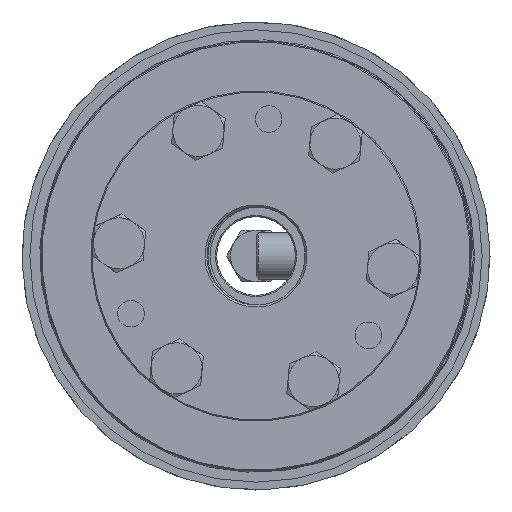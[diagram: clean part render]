
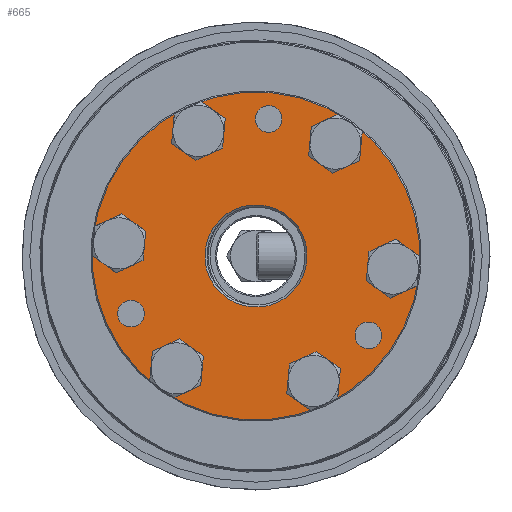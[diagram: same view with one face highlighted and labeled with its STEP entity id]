
A CAD part, left-side view. The second image highlights one B-rep face of the part: STEP entity #665.
In plain terms, the highlighted planar face has unit normal (-1, 0, 0).
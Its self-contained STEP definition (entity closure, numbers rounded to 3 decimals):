
#665 = ADVANCED_FACE( 'NONE', ( #1093, #1094, #1095, #1096, #1097, #1098, #1099, #1100, #1101, #1102, #1103 ), #1104, .F. );
#1093 = FACE_OUTER_BOUND( '', #1633, .T. );
#1094 = FACE_BOUND( '', #1634, .T. );
#1095 = FACE_BOUND( '', #1635, .T. );
#1096 = FACE_BOUND( '', #1636, .T. );
#1097 = FACE_BOUND( '', #1637, .T. );
#1098 = FACE_BOUND( '', #1638, .T. );
#1099 = FACE_BOUND( '', #1639, .T. );
#1100 = FACE_BOUND( '', #1640, .T. );
#1101 = FACE_BOUND( '', #1641, .T. );
#1102 = FACE_BOUND( '', #1642, .T. );
#1103 = FACE_BOUND( '', #1643, .T. );
#1104 = PLANE( '', #1644 );
#1633 = EDGE_LOOP( '', ( #2385 ) );
#1634 = EDGE_LOOP( '', ( #2386 ) );
#1635 = EDGE_LOOP( '', ( #2387 ) );
#1636 = EDGE_LOOP( '', ( #2388 ) );
#1637 = EDGE_LOOP( '', ( #2389 ) );
#1638 = EDGE_LOOP( '', ( #2390 ) );
#1639 = EDGE_LOOP( '', ( #2391 ) );
#1640 = EDGE_LOOP( '', ( #2392 ) );
#1641 = EDGE_LOOP( '', ( #2393 ) );
#1642 = EDGE_LOOP( '', ( #2394 ) );
#1643 = EDGE_LOOP( '', ( #2395 ) );
#1644 = AXIS2_PLACEMENT_3D( '', #2396, #2397, #2398 );
#2385 = ORIENTED_EDGE( '', *, *, #3129, .T. );
#2386 = ORIENTED_EDGE( '', *, *, #3112, .T. );
#2387 = ORIENTED_EDGE( '', *, *, #3127, .F. );
#2388 = ORIENTED_EDGE( '', *, *, #3124, .F. );
#2389 = ORIENTED_EDGE( '', *, *, #3125, .F. );
#2390 = ORIENTED_EDGE( '', *, *, #3128, .F. );
#2391 = ORIENTED_EDGE( '', *, *, #3130, .F. );
#2392 = ORIENTED_EDGE( '', *, *, #3131, .F. );
#2393 = ORIENTED_EDGE( '', *, *, #3132, .F. );
#2394 = ORIENTED_EDGE( '', *, *, #3110, .F. );
#2395 = ORIENTED_EDGE( '', *, *, #3126, .F. );
#2396 = CARTESIAN_POINT( '', ( 0., 12.5, 0. ) );
#2397 = DIRECTION( '', ( 1., 0., 0. ) );
#2398 = DIRECTION( '', ( 0., 1., 0. ) );
#3110 = EDGE_CURVE( 'NONE', #3470, #3470, #3471, .T. );
#3112 = EDGE_CURVE( 'NONE', #3474, #3474, #3475, .T. );
#3124 = EDGE_CURVE( 'NONE', #3498, #3498, #3499, .T. );
#3125 = EDGE_CURVE( 'NONE', #3500, #3500, #3501, .T. );
#3126 = EDGE_CURVE( 'NONE', #3502, #3502, #3503, .T. );
#3127 = EDGE_CURVE( 'NONE', #3504, #3504, #3505, .T. );
#3128 = EDGE_CURVE( 'NONE', #3506, #3506, #3507, .T. );
#3129 = EDGE_CURVE( 'NONE', #3508, #3508, #3509, .T. );
#3130 = EDGE_CURVE( 'NONE', #3510, #3510, #3511, .T. );
#3131 = EDGE_CURVE( 'NONE', #3512, #3512, #3513, .T. );
#3132 = EDGE_CURVE( 'NONE', #3514, #3514, #3515, .T. );
#3470 = VERTEX_POINT( '', #3950 );
#3471 = CIRCLE( '', #3951, 3.4 );
#3474 = VERTEX_POINT( '', #3954 );
#3475 = CIRCLE( '', #3955, 13. );
#3498 = VERTEX_POINT( '', #3978 );
#3499 = CIRCLE( '', #3979, 4.25 );
#3500 = VERTEX_POINT( '', #3980 );
#3501 = CIRCLE( '', #3981, 4.25 );
#3502 = VERTEX_POINT( '', #3982 );
#3503 = CIRCLE( '', #3983, 3.4 );
#3504 = VERTEX_POINT( '', #3984 );
#3505 = CIRCLE( '', #3985, 3.4 );
#3506 = VERTEX_POINT( '', #3986 );
#3507 = CIRCLE( '', #3987, 4.25 );
#3508 = VERTEX_POINT( '', #3988 );
#3509 = CIRCLE( '', #3989, 41.7 );
#3510 = VERTEX_POINT( '', #3990 );
#3511 = CIRCLE( '', #3991, 4.25 );
#3512 = VERTEX_POINT( '', #3992 );
#3513 = CIRCLE( '', #3993, 4.25 );
#3514 = VERTEX_POINT( '', #3994 );
#3515 = CIRCLE( '', #3995, 4.25 );
#3950 = CARTESIAN_POINT( '', ( 0., 17.5, 33.711 ) );
#3951 = AXIS2_PLACEMENT_3D( '', #4906, #4907, #4908 );
#3954 = CARTESIAN_POINT( '', ( 0., 0., -13. ) );
#3955 = AXIS2_PLACEMENT_3D( '', #4912, #4913, #4914 );
#3978 = CARTESIAN_POINT( '', ( 0., 0., 39.25 ) );
#3979 = AXIS2_PLACEMENT_3D( '', #4948, #4949, #4950 );
#3980 = CARTESIAN_POINT( '', ( 0., 30.311, 21.75 ) );
#3981 = AXIS2_PLACEMENT_3D( '', #4951, #4952, #4953 );
#3982 = CARTESIAN_POINT( '', ( 0., -35., 3.4 ) );
#3983 = AXIS2_PLACEMENT_3D( '', #4954, #4955, #4956 );
#3984 = CARTESIAN_POINT( '', ( 0., 17.5, -26.911 ) );
#3985 = AXIS2_PLACEMENT_3D( '', #4957, #4958, #4959 );
#3986 = CARTESIAN_POINT( '', ( 0., 30.311, -13.25 ) );
#3987 = AXIS2_PLACEMENT_3D( '', #4960, #4961, #4962 );
#3988 = CARTESIAN_POINT( '', ( 0., 0., -41.7 ) );
#3989 = AXIS2_PLACEMENT_3D( '', #4963, #4964, #4965 );
#3990 = CARTESIAN_POINT( '', ( 0., 0., -30.75 ) );
#3991 = AXIS2_PLACEMENT_3D( '', #4966, #4967, #4968 );
#3992 = CARTESIAN_POINT( '', ( 0., -30.311, -13.25 ) );
#3993 = AXIS2_PLACEMENT_3D( '', #4969, #4970, #4971 );
#3994 = CARTESIAN_POINT( '', ( 0., -30.311, 21.75 ) );
#3995 = AXIS2_PLACEMENT_3D( '', #4972, #4973, #4974 );
#4906 = CARTESIAN_POINT( '', ( 0., 17.5, 30.311 ) );
#4907 = DIRECTION( '', ( -1., 0., 0. ) );
#4908 = DIRECTION( '', ( 0., 0., 1. ) );
#4912 = CARTESIAN_POINT( '', ( 0., 0., 0. ) );
#4913 = DIRECTION( '', ( 1., 0., 0. ) );
#4914 = DIRECTION( '', ( 0., 0., -1. ) );
#4948 = CARTESIAN_POINT( '', ( 0., 0., 35. ) );
#4949 = DIRECTION( '', ( -1., 0., 0. ) );
#4950 = DIRECTION( '', ( 0., 0., 1. ) );
#4951 = CARTESIAN_POINT( '', ( 0., 30.311, 17.5 ) );
#4952 = DIRECTION( '', ( -1., 0., 0. ) );
#4953 = DIRECTION( '', ( 0., 0., 1. ) );
#4954 = CARTESIAN_POINT( '', ( 0., -35., 0. ) );
#4955 = DIRECTION( '', ( -1., 0., 0. ) );
#4956 = DIRECTION( '', ( 0., 0., 1. ) );
#4957 = CARTESIAN_POINT( '', ( 0., 17.5, -30.311 ) );
#4958 = DIRECTION( '', ( -1., 0., 0. ) );
#4959 = DIRECTION( '', ( 0., 0., 1. ) );
#4960 = CARTESIAN_POINT( '', ( 0., 30.311, -17.5 ) );
#4961 = DIRECTION( '', ( -1., 0., 0. ) );
#4962 = DIRECTION( '', ( 0., 0., 1. ) );
#4963 = CARTESIAN_POINT( '', ( 0., 0., 0. ) );
#4964 = DIRECTION( '', ( -1., 0., 0. ) );
#4965 = DIRECTION( '', ( 0., 0., -1. ) );
#4966 = CARTESIAN_POINT( '', ( 0., 0., -35. ) );
#4967 = DIRECTION( '', ( -1., 0., 0. ) );
#4968 = DIRECTION( '', ( 0., 0., 1. ) );
#4969 = CARTESIAN_POINT( '', ( 0., -30.311, -17.5 ) );
#4970 = DIRECTION( '', ( -1., 0., 0. ) );
#4971 = DIRECTION( '', ( 0., 0., 1. ) );
#4972 = CARTESIAN_POINT( '', ( 0., -30.311, 17.5 ) );
#4973 = DIRECTION( '', ( -1., 0., 0. ) );
#4974 = DIRECTION( '', ( 0., 0., 1. ) );
